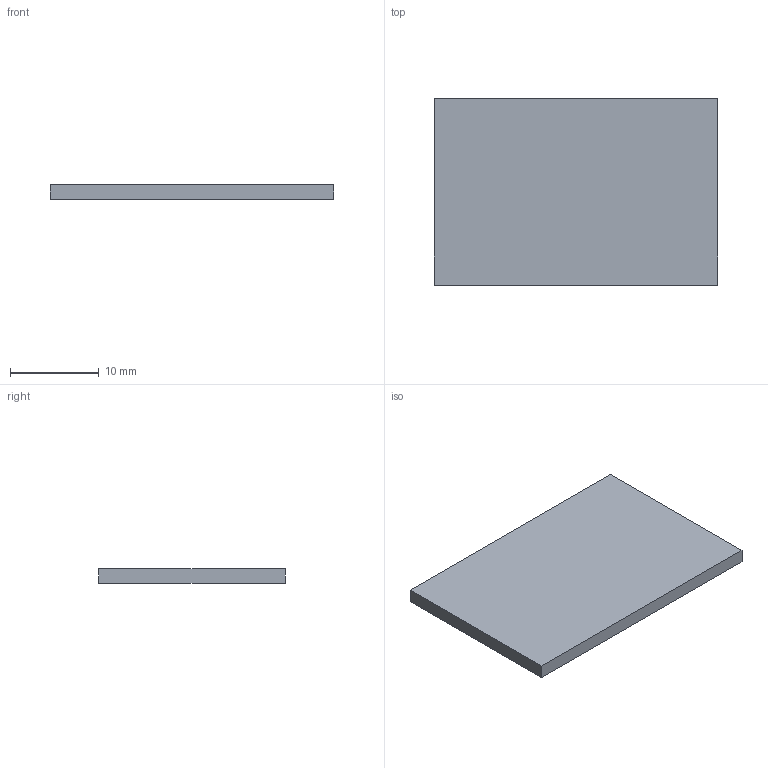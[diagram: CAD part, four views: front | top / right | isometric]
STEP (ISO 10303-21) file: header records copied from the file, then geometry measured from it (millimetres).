
FILE_DESCRIPTION(('Open CASCADE Model'),'2;1');
FILE_NAME('Open CASCADE Shape Model','2026-09-10T23:36:52',('Author'),( 'Open CASCADE'),'Open CASCADE STEP processor 7.9','Open CASCADE 7.9' ,'Unknown');
FILE_SCHEMA(('AUTOMOTIVE_DESIGN { 1 0 10303 214 1 1 1 1 }'));
Length unit declared in the file: millimetre
Products named in the file (1): Open CASCADE STEP translator 7.9 31
Bounding box: 32 x 21 x 1.6 mm (x, y, z)
Volume: 1075.2 mm3; surface area: 1513.6 mm2
Topology: 1 solids, 1 shells, 6 faces, 12 edges, 8 vertices
Faces by surface type: plane 6
Entity records: 322 total; most frequent: CARTESIAN_POINT 51, DIRECTION 50, LINE 36, VECTOR 36, ORIENTED_EDGE 24, PCURVE 24, DEFINITIONAL_REPRESENTATION 24, EDGE_CURVE 12
